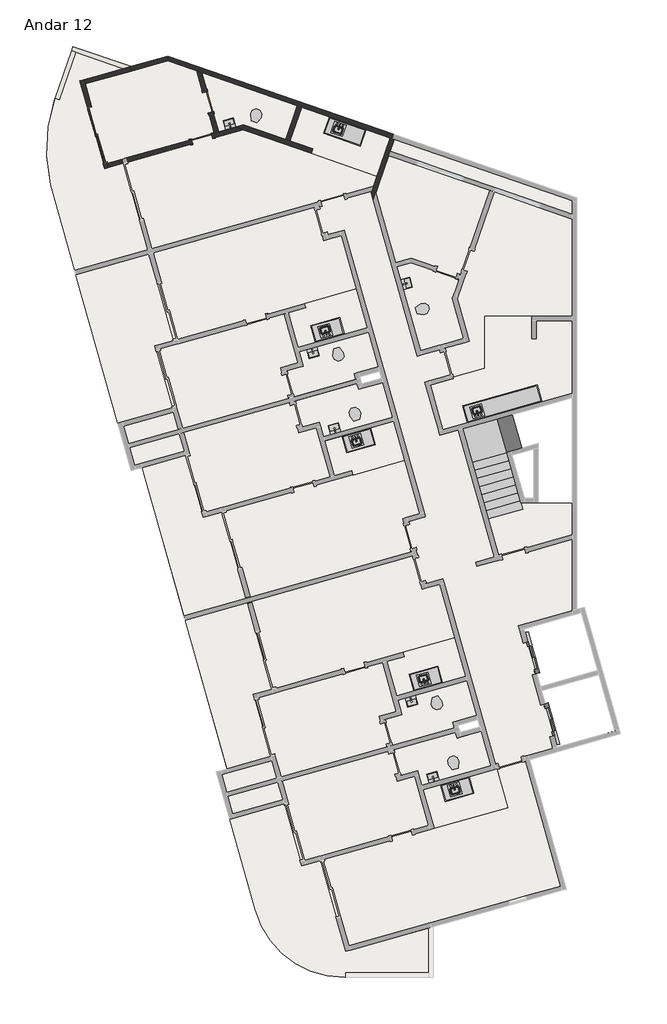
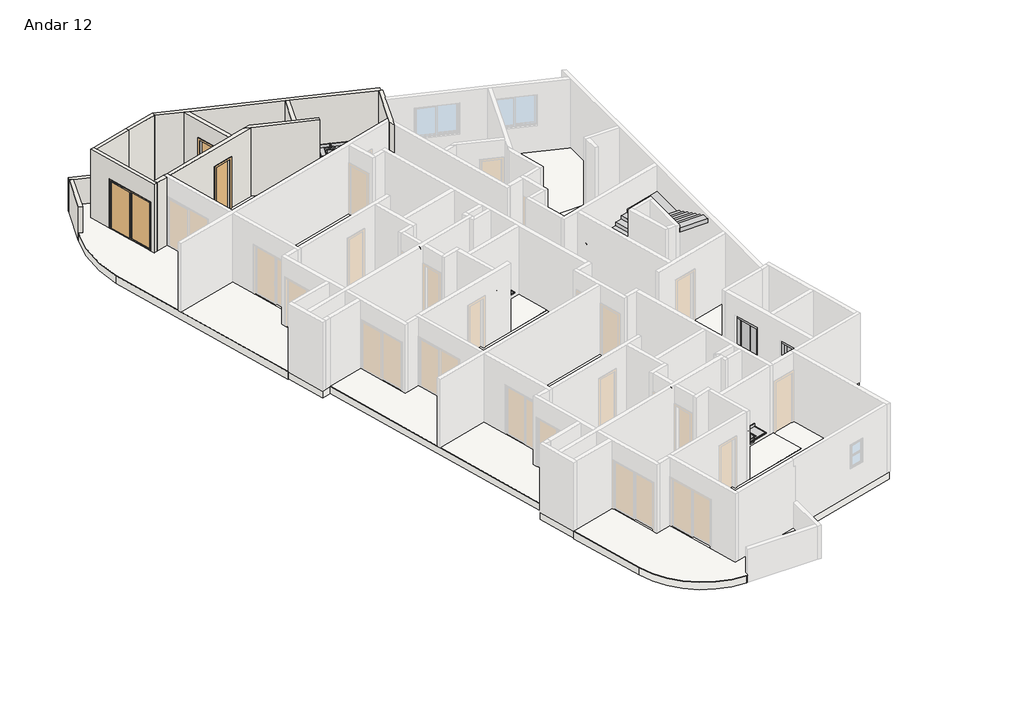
# One storey, part 3 of 3: 18 flow terminals, 18 slabs, 12 walls, 8 proxies, 3 doors, 1 stair flight.
"""IFC4 building model written with IfcOpenShell, lengths in millimetres."""

from ifc_helpers import new_model, si_unit, point, frame, frame_2d, origin, place, context, project, spatial, polyline, circle_curve, trimmed, segment, composite_curve, outline, extrude, faceted_brep, transform, mapped, element, save
from components import specialty_equipment_6c35da8b, specialty_equipment_77dfa124, rf_bancada_cozinha_rf_bancada_cozinha_340fef9f, rf_bancada_cozinha_rf_bancada_cozinha_cfb88ba1, rf_bancada_cozinha_rf_bancada_cozinha_2f873929, rf_bancada_cozinha_rf_bancada_cozinha_798ceddf, p3_70cm_ef4d15e3, p3_70cm_0a698c7c, p4_correr_200cm_eaaa0877, flow_terminal_cab7bae2, flow_terminal_3fb7dc42, flow_terminal_e42b9071, flow_terminal_c6e042c4, ap_01_creme_cr37_13e02e03, ap_01_creme_cr37_5ce6e54d

model = new_model("IFC4")

# Units and contexts
model_context = context("Model", 3, world=origin())
ifc_project = project(units=[si_unit("LENGTHUNIT", "METRE", prefix="MILLI")], contexts=[model_context])

# Site, building, storey
site = spatial("IfcSite", under=ifc_project)
building = spatial("IfcBuilding", under=site)
storey = spatial("IfcBuildingStorey", under=building, Name="Andar 12", Elevation=85550.0)

# Proxies
placement = place(None, origin())
specialty_equipment_shape = specialty_equipment_6c35da8b(model_context)
element("IfcBuildingElementProxy", 1, Name="Porta do elevador : Porta do elevador", ObjectType="Porta do elevador : Porta do elevador", at=placement, inside=storey, context=model_context, shape_type="MappedRepresentation", body=[
    mapped(specialty_equipment_shape, transform((-76594.4337486, 15747.4543727, 85550.0), x_axis=(0.27176796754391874, -0.9623628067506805, 0.0), y_axis=(0.9623628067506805, 0.27176796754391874, 0.0), z_axis=(0.0, 0.0, 1.0))),
])
specialty_equipment_2_shape = specialty_equipment_77dfa124(model_context)
element("IfcBuildingElementProxy", 2, Name="Porta do elevador : Porta do elevador", ObjectType="Porta do elevador : Porta do elevador", at=placement, inside=storey, context=model_context, shape_type="MappedRepresentation", body=[
    mapped(specialty_equipment_2_shape, transform((-75942.1906265, 13437.7836365, 85550.0), x_axis=(-0.27176796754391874, 0.9623628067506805, 0.0), y_axis=(-0.9623628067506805, -0.27176796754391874, 0.0), z_axis=(0.0, 0.0, 1.0))),
])
rf_bancada_cozinha_rf_bancada_cozinha_shape = rf_bancada_cozinha_rf_bancada_cozinha_340fef9f(model_context)
element("IfcBuildingElementProxy", 3, Name="RF_Bancada Cozinha : RF_Bancada Cozinha", ObjectType="RF_Bancada Cozinha : RF_Bancada Cozinha", at=placement, inside=storey, context=model_context, shape_type="MappedRepresentation", body=[
    mapped(rf_bancada_cozinha_rf_bancada_cozinha_shape, transform((-82760.548019, 26451.5820971, 86300.0), x_axis=(-0.9623628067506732, -0.27176796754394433, 0.0), y_axis=(0.27176796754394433, -0.9623628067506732, 0.0), z_axis=(0.0, 0.0, 1.0))),
])
element("IfcBuildingElementProxy", 4, Name="RF_Bancada Cozinha : RF_Bancada Cozinha", ObjectType="RF_Bancada Cozinha : RF_Bancada Cozinha", at=placement, inside=storey, context=model_context, shape_type="MappedRepresentation", body=[
    mapped(rf_bancada_cozinha_rf_bancada_cozinha_shape, transform((-79472.1556117, 14806.9921354, 86300.0), x_axis=(-0.962362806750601, -0.2717679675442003, 0.0), y_axis=(0.2717679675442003, -0.962362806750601, 0.0), z_axis=(0.0, 0.0, 1.0))),
])
rf_bancada_cozinha_rf_bancada_cozinha_2_shape = rf_bancada_cozinha_rf_bancada_cozinha_cfb88ba1(model_context)
element("IfcBuildingElementProxy", 5, Name="RF_Bancada Cozinha : RF_Bancada Cozinha", ObjectType="RF_Bancada Cozinha : RF_Bancada Cozinha", at=placement, inside=storey, context=model_context, shape_type="MappedRepresentation", body=[
    mapped(rf_bancada_cozinha_rf_bancada_cozinha_2_shape, transform((-81877.3021245, 23323.9029751, 86300.0), x_axis=(-0.9623628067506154, -0.27176796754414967, 0.0), y_axis=(0.27176796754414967, -0.9623628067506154, 0.0), z_axis=(0.0, 0.0, 1.0))),
])
element("IfcBuildingElementProxy", 6, Name="RF_Bancada Cozinha : RF_Bancada Cozinha", ObjectType="RF_Bancada Cozinha : RF_Bancada Cozinha", at=placement, inside=storey, context=model_context, shape_type="MappedRepresentation", body=[
    mapped(rf_bancada_cozinha_rf_bancada_cozinha_2_shape, transform((-78588.9097172, 11679.3130134, 86300.0), x_axis=(-0.9623628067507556, -0.27176796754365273, 0.0), y_axis=(0.27176796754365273, -0.9623628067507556, 0.0), z_axis=(0.0, 0.0, 1.0))),
])
rf_bancada_cozinha_rf_bancada_cozinha_3_shape = rf_bancada_cozinha_rf_bancada_cozinha_2f873929(model_context)
element("IfcBuildingElementProxy", 7, Name="RF_Bancada Cozinha : RF_Bancada Cozinha", ObjectType="RF_Bancada Cozinha : RF_Bancada Cozinha", at=placement, inside=storey, context=model_context, shape_type="MappedRepresentation", body=[
    mapped(rf_bancada_cozinha_rf_bancada_cozinha_3_shape, transform((-82030.0326121, 33293.9830661, 86300.0), x_axis=(-0.9449109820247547, 0.32732741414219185, 0.0), y_axis=(-0.32732741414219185, -0.9449109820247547, 0.0), z_axis=(0.0, 0.0, 1.0))),
])
rf_bancada_cozinha_rf_bancada_cozinha_4_shape = rf_bancada_cozinha_rf_bancada_cozinha_798ceddf(model_context)
element("IfcBuildingElementProxy", 8, Name="RF_Bancada Cozinha : RF_Bancada Cozinha", ObjectType="RF_Bancada Cozinha : RF_Bancada Cozinha", at=placement, inside=storey, context=model_context, shape_type="MappedRepresentation", body=[
    mapped(rf_bancada_cozinha_rf_bancada_cozinha_4_shape, transform((-76157.6622331, 24197.9763092, 86300.0), x_axis=(-0.9623628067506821, -0.27176796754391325, 0.0), y_axis=(0.27176796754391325, -0.9623628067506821, 0.0), z_axis=(0.0, 0.0, 1.0))),
])

# Doors
p3_70cm_shape = p3_70cm_ef4d15e3(model_context)
element("IfcDoor", 9, ObjectType="M_Folha única1 : P3 - 70CM", at=placement, inside=storey, context=model_context, shape_type="MappedRepresentation", body=[
    mapped(p3_70cm_shape, transform((-87513.806232, 32980.5300491, 85550.0), x_axis=(0.9623628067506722, 0.2717679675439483, 0.0), y_axis=(-0.2717679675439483, 0.9623628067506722, 0.0), z_axis=(0.0, 0.0, 1.0))),
])
p3_70cm_2_shape = p3_70cm_0a698c7c(model_context)
element("IfcDoor", 10, ObjectType="M_Folha única1 : P3 - 70CM", at=placement, inside=storey, context=model_context, shape_type="MappedRepresentation", body=[
    mapped(p3_70cm_2_shape, transform((-87314.304722, 34205.8663896, 85550.0), x_axis=(-0.2717679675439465, 0.9623628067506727, 0.0), y_axis=(-0.9623628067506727, -0.2717679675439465, 0.0), z_axis=(0.0, 0.0, 1.0))),
])
p4_correr_200cm_shape = p4_correr_200cm_eaaa0877(model_context)
element("IfcDoor", 11, ObjectType="Porta de correr dupla envidraçada sem revestimento : P4 - CORRER - 200CM", at=placement, inside=storey, context=model_context, shape_type="MappedRepresentation", body=[
    mapped(p4_correr_200cm_shape, transform((-91005.8131296, 33111.4415743, 85550.0), x_axis=(0.2717679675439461, -0.9623628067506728, 0.0), y_axis=(0.9623628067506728, 0.2717679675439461, 0.0), z_axis=(0.0, 0.0, 1.0))),
])

# Flow terminals
flow_terminal_shape = flow_terminal_cab7bae2(model_context)
element("IfcFlowTerminal", 12, ObjectType="RF_Pias : Pia da Bancada", at=placement, inside=storey, context=model_context, shape_type="MappedRepresentation", body=[
    mapped(flow_terminal_shape, transform((-83380.5102831, 26570.4992214, 85402.9), x_axis=(-0.9623628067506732, -0.27176796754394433, 0.0), y_axis=(0.27176796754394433, -0.9623628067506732, 0.0), z_axis=(0.0, 0.0, 1.0))),
])
element("IfcFlowTerminal", 13, ObjectType="RF_Pias : Pia da Bancada", at=placement, inside=storey, context=model_context, shape_type="MappedRepresentation", body=[
    mapped(flow_terminal_shape, transform((-80092.1178758, 14925.9092597, 85402.9), x_axis=(-0.962362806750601, -0.2717679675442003, 0.0), y_axis=(0.2717679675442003, -0.962362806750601, 0.0), z_axis=(0.0, 0.0, 1.0))),
])
element("IfcFlowTerminal", 14, ObjectType="RF_Pias : Pia da Bancada", at=placement, inside=storey, context=model_context, shape_type="MappedRepresentation", body=[
    mapped(flow_terminal_shape, transform((-78306.8185143, 23885.0542694, 85402.9), x_axis=(-0.9623628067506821, -0.27176796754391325, 0.0), y_axis=(0.27176796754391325, -0.9623628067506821, 0.0), z_axis=(0.0, 0.0, 1.0))),
])
flow_terminal_2_shape = flow_terminal_3fb7dc42(model_context)
element("IfcFlowTerminal", 15, ObjectType="Deca_Cuba de Apoio Retangular_L7300 : L.7300.17_Branco Gelo GE17", at=placement, inside=storey, context=model_context, shape_type="MappedRepresentation", body=[
    mapped(flow_terminal_2_shape, transform((-83090.0822283, 23308.7374016, 86300.0), x_axis=(-0.9623628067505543, -0.2717679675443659, 0.0), y_axis=(0.2717679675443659, -0.9623628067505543, 0.0), z_axis=(0.0, 0.0, 1.0))),
])
element("IfcFlowTerminal", 16, ObjectType="Deca_Cuba de Apoio Retangular_L7300 : L.7300.17_Branco Gelo GE17", at=placement, inside=storey, context=model_context, shape_type="MappedRepresentation", body=[
    mapped(flow_terminal_2_shape, transform((-79801.689821, 11664.1474399, 86300.0), x_axis=(-0.9623628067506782, -0.2717679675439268, 0.0), y_axis=(0.2717679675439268, -0.9623628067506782, 0.0), z_axis=(0.0, 0.0, 1.0))),
])
element("IfcFlowTerminal", 17, ObjectType="Deca_Cuba de Apoio Retangular_L7300 : L.7300.17_Branco Gelo GE17", at=placement, inside=storey, context=model_context, shape_type="MappedRepresentation", body=[
    mapped(flow_terminal_2_shape, transform((-80677.0991462, 28154.8020678, 86300.0), x_axis=(-0.2717679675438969, 0.9623628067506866, 0.0), y_axis=(-0.9623628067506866, -0.2717679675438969, 0.0), z_axis=(0.0, 0.0, 1.0))),
])
element("IfcFlowTerminal", 18, ObjectType="Deca_Cuba de Apoio Retangular_L7300 : L.7300.17_Branco Gelo GE17", at=placement, inside=storey, context=model_context, shape_type="MappedRepresentation", body=[
    mapped(flow_terminal_2_shape, transform((-86597.4204814, 33488.7004496, 86300.0), x_axis=(-0.9623628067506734, -0.27176796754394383, 0.0), y_axis=(0.27176796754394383, -0.9623628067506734, 0.0), z_axis=(0.0, 0.0, 1.0))),
])
flow_terminal_3_shape = flow_terminal_e42b9071(model_context)
element("IfcFlowTerminal", 19, ObjectType="Deca_Cuba de Apoio Retangular_L7300 : L.7300.17_Branco Gelo GE17", at=placement, inside=storey, context=model_context, shape_type="MappedRepresentation", body=[
    mapped(flow_terminal_3_shape, transform((-83802.1143033, 25830.1279553, 86300.0), x_axis=(-0.9623628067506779, -0.2717679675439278, 0.0), y_axis=(0.2717679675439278, -0.9623628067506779, 0.0), z_axis=(0.0, 0.0, 1.0))),
])
element("IfcFlowTerminal", 20, ObjectType="Deca_Cuba de Apoio Retangular_L7300 : L.7300.17_Branco Gelo GE17", at=placement, inside=storey, context=model_context, shape_type="MappedRepresentation", body=[
    mapped(flow_terminal_3_shape, transform((-80513.721896, 14185.5379936, 86300.0), x_axis=(-0.962362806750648, -0.27176796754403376, 0.0), y_axis=(0.27176796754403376, -0.962362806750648, 0.0), z_axis=(0.0, 0.0, 1.0))),
])
flow_terminal_4_shape = flow_terminal_c6e042c4(model_context)
element("IfcFlowTerminal", 21, ObjectType="RF_Pias : Pia da Bancada", at=placement, inside=storey, context=model_context, shape_type="MappedRepresentation", body=[
    mapped(flow_terminal_4_shape, transform((-82343.483233, 22898.2626745, 85402.9), x_axis=(-0.9623628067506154, -0.27176796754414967, 0.0), y_axis=(0.27176796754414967, -0.9623628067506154, 0.0), z_axis=(0.0, 0.0, 1.0))),
])
element("IfcFlowTerminal", 22, ObjectType="RF_Pias : Pia da Bancada", at=placement, inside=storey, context=model_context, shape_type="MappedRepresentation", body=[
    mapped(flow_terminal_4_shape, transform((-79055.0908257, 11253.6727129, 85402.9), x_axis=(-0.9623628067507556, -0.27176796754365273, 0.0), y_axis=(0.27176796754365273, -0.9623628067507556, 0.0), z_axis=(0.0, 0.0, 1.0))),
])
element("IfcFlowTerminal", 23, ObjectType="RF_Pias : Pia da Bancada", at=placement, inside=storey, context=model_context, shape_type="MappedRepresentation", body=[
    mapped(flow_terminal_4_shape, transform((-82939.3392028, 33309.5545572, 85402.9), x_axis=(-0.9449109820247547, 0.32732741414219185, 0.0), y_axis=(-0.32732741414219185, -0.9449109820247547, 0.0), z_axis=(0.0, 0.0, 1.0))),
])
ap_01_creme_cr37_shape = ap_01_creme_cr37_13e02e03(model_context)
element("IfcFlowTerminal", 24, ObjectType="Deca_Shared_Assento_P.900 : AP.01_Creme CR37", at=placement, inside=storey, context=model_context, shape_type="MappedRepresentation", body=[
    mapped(ap_01_creme_cr37_shape, transform((-83017.5301151, 25983.4740486, 85937.8723674), x_axis=(0.9623628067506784, 0.2717679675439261, 0.0), y_axis=(0.0, 0.0, 1.0), z_axis=(0.2717679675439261, -0.9623628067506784, 0.0))),
])
element("IfcFlowTerminal", 25, ObjectType="Deca_Shared_Assento_P.900 : AP.01_Creme CR37", at=placement, inside=storey, context=model_context, shape_type="MappedRepresentation", body=[
    mapped(ap_01_creme_cr37_shape, transform((-79729.1377078, 14338.8840869, 85937.8723674), x_axis=(0.962362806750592, 0.2717679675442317, 0.0), y_axis=(0.0, 0.0, 1.0), z_axis=(0.2717679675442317, -0.962362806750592, 0.0))),
])
element("IfcFlowTerminal", 26, ObjectType="Deca_Shared_Assento_P.900 : AP.01_Creme CR37", at=placement, inside=storey, context=model_context, shape_type="MappedRepresentation", body=[
    mapped(ap_01_creme_cr37_shape, transform((-80349.5164684, 27236.3600819, 85937.8723674), x_axis=(-0.271767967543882, 0.9623628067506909, 0.0), y_axis=(0.0, 0.0, 1.0), z_axis=(0.9623628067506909, 0.271767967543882, 0.0))),
])
element("IfcFlowTerminal", 27, ObjectType="Deca_Shared_Assento_P.900 : AP.01_Creme CR37", at=placement, inside=storey, context=model_context, shape_type="MappedRepresentation", body=[
    mapped(ap_01_creme_cr37_shape, transform((-85777.8760768, 33566.4131555, 85937.8723674), x_axis=(-0.9449109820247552, 0.3273274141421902, 0.0), y_axis=(0.0, 0.0, 1.0000000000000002), z_axis=(0.3273274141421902, 0.9449109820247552, 0.0))),
])
ap_01_creme_cr37_2_shape = ap_01_creme_cr37_5ce6e54d(model_context)
element("IfcFlowTerminal", 28, ObjectType="Deca_Shared_Assento_P.900 : AP.01_Creme CR37", at=placement, inside=storey, context=model_context, shape_type="MappedRepresentation", body=[
    mapped(ap_01_creme_cr37_2_shape, transform((-82341.1813229, 23588.4422577, 85937.8723674), x_axis=(0.9623628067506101, 0.27176796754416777, 0.0), y_axis=(0.0, 0.0, -1.0), z_axis=(-0.27176796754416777, 0.9623628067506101, 0.0))),
])
element("IfcFlowTerminal", 29, ObjectType="Deca_Shared_Assento_P.900 : AP.01_Creme CR37", at=placement, inside=storey, context=model_context, shape_type="MappedRepresentation", body=[
    mapped(ap_01_creme_cr37_2_shape, transform((-79052.7889156, 11943.852296, 85937.8723674), x_axis=(0.9623628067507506, 0.2717679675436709, 0.0), y_axis=(0.0, 0.0, -1.0000000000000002), z_axis=(-0.2717679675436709, 0.9623628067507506, 0.0))),
])

# Slabs
element("IfcSlab", 30, ObjectType="TZ_Piso de Áreas Molhadas", at=placement, inside=storey, context=model_context, shape_type="SweptSolid", body=[
    extrude(outline(composite_curve([segment(polyline([(-90765.4571774, 31984.341749), (-90143.7425806, 32159.9118263), (-89328.438678, 29272.823406), (-91766.0080564, 28584.4621444), (-92573.2320087, 31442.9384962)]), True, "CONTINUOUS"), segment(trimmed(circle_curve(frame_2d((-87414.5556743, 32622.5665107)), 5291.829908), [point((-92573.2320087, 31442.9384962))], [point((-92422.0860726, 34333.7366032))], False, "CARTESIAN"), True, "CONTINUOUS"), segment(polyline([(-92422.0860726, 34333.7366032), (-92280.2794148, 34284.6132387), (-91729.7010481, 35873.9929322), (-90151.0501028, 35327.1311202), (-91594.3494784, 34919.5483093), (-90765.4571774, 31984.341749)]), True, "CONTINUOUS")], self_intersect=False)), frame((0.0, 0.0, 85550.0), z_axis=(0.0, 0.0, 1.0), x_axis=(1.0, 0.0, 0.0)), (0.0, 0.0, 1.0), 20.0),
])
element("IfcSlab", 31, ObjectType="TZ_Piso de Áreas Molhadas", at=placement, inside=storey, context=model_context, shape_type="SweptSolid", body=[
    extrude(outline(polyline([(-88472.3695802, 26241.3805647), (-89094.084177, 26065.8104874), (-88509.7830468, 23996.7304529), (-90325.6378284, 23483.9392686), (-91725.2428613, 28440.1077234), (-89287.6734828, 29128.468985), (-88472.3695802, 26241.3805647)])), frame((0.0, 0.0, 85550.0), z_axis=(0.0, 0.0, 1.0), x_axis=(1.0, 0.0, 0.0)), (0.0, 0.0, 1.0), 20.0),
])
element("IfcSlab", 32, ObjectType="TZ_Piso de Áreas Molhadas", at=placement, inside=storey, context=model_context, shape_type="SweptSolid", body=[
    extrude(outline(polyline([(-86855.3501733, 20515.3218645), (-86040.0462707, 17628.2334443), (-88109.1263052, 17043.9323141), (-89508.731338, 22000.1007688), (-88061.3659003, 22408.8318218), (-87477.0647701, 20339.7517872), (-86855.3501733, 20515.3218645)])), frame((0.0, 0.0, 85550.0), z_axis=(0.0, 0.0, 1.0), x_axis=(1.0, 0.0, 0.0)), (0.0, 0.0, 1.0), 20.0),
])
element("IfcSlab", 33, ObjectType="TZ_Piso de Áreas Molhadas", at=placement, inside=storey, context=model_context, shape_type="SweptSolid", body=[
    extrude(outline(polyline([(-78926.5637691, 28284.9851582), (-79146.9727346, 27648.7205404), (-78771.1333302, 26317.8283554), (-80214.6775403, 25910.176404), (-81004.3851492, 28706.6252933), (-80530.2499593, 28840.5194505), (-78926.5637691, 28284.9851582)])), frame((0.0, 0.0, 85550.0), z_axis=(0.0, 0.0, 1.0), x_axis=(1.0, 0.0, 0.0)), (0.0, 0.0, 1.0), 20.0),
])
element("IfcSlab", 34, ObjectType="TZ_Piso de Áreas Molhadas", at=placement, inside=storey, context=model_context, shape_type="SweptSolid", body=[
    extrude(outline(polyline([(-78070.9150345, 27060.8243598), (-76493.6479314, 27060.8243598), (-76493.6479314, 26310.8243598), (-76343.6479314, 26310.8243598), (-76343.6479314, 26910.8243598), (-75147.8282189, 26910.8243598), (-75147.8282189, 24483.4871675), (-79467.3156296, 23263.6786855), (-79888.5559793, 24755.3410359), (-79127.7601479, 24970.1871785), (-79141.3485461, 25018.3053183), (-78070.9150345, 25320.5920836), (-78070.9150345, 27060.8243598)])), frame((0.0, 0.0, 85550.0), z_axis=(0.0, 0.0, 1.0), x_axis=(1.0, 0.0, 0.0)), (0.0, 0.0, 1.0), 20.0),
])
element("IfcSlab", 35, ObjectType="TZ_Piso de Áreas Molhadas", at=placement, inside=storey, context=model_context, shape_type="SweptSolid", body=[
    extrude(outline(polyline([(-84719.4810559, 32955.6762822), (-86137.8721095, 33447.0223292), (-86956.7711455, 33215.7680402), (-87515.4733556, 35194.1992432), (-84326.6881589, 34089.5694606), (-84719.4810559, 32955.6762822)])), frame((0.0, 0.0, 85550.0), z_axis=(0.0, 0.0, 1.0), x_axis=(1.0, 0.0, 0.0)), (0.0, 0.0, 1.0), 20.0),
])
element("IfcSlab", 36, ObjectType="TZ_Piso de Áreas Molhadas", at=placement, inside=storey, context=model_context, shape_type="SweptSolid", body=[
    extrude(outline(polyline([(-84577.7444086, 32906.57717), (-84184.9515116, 34040.4703485), (-81226.8582774, 33015.7547641), (-81668.7502865, 31740.1249383), (-83870.9147351, 32502.9785914), (-83821.815623, 32644.7152387), (-84577.7444086, 32906.57717)])), frame((0.0, 0.0, 85550.0), z_axis=(0.0, 0.0, 1.0), x_axis=(1.0, 0.0, 0.0)), (0.0, 0.0, 1.0), 20.0),
])
element("IfcSlab", 37, ObjectType="TZ_Piso de Áreas Molhadas", at=placement, inside=storey, context=model_context, shape_type="SweptSolid", body=[
    extrude(outline(polyline([(-81949.8925784, 26524.6420501), (-81623.7710174, 25369.806682), (-82432.1557751, 25141.5215893), (-82377.8021816, 24949.0490279), (-84456.5058441, 24362.030218), (-84701.0970149, 25228.1567441), (-84123.6793309, 25391.2175246), (-84259.5633146, 25872.398928), (-81949.8925784, 26524.6420501)])), frame((0.0, 0.0, 85550.0), z_axis=(0.0, 0.0, 1.0), x_axis=(1.0, 0.0, 0.0)), (0.0, 0.0, 1.0), 20.0),
])
element("IfcSlab", 38, ObjectType="TZ_Piso de Áreas Molhadas", at=placement, inside=storey, context=model_context, shape_type="SweptSolid", body=[
    extrude(outline(polyline([(-84089.7975819, 27479.0039186), (-82357.5445298, 27968.1862602), (-81990.6577736, 26668.9964711), (-84300.3285098, 26016.753349), (-84626.4500708, 27171.5887171), (-84049.0323868, 27334.6494976), (-84089.7975819, 27479.0039186)])), frame((0.0, 0.0, 85550.0), z_axis=(0.0, 0.0, 1.0), x_axis=(1.0, 0.0, 0.0)), (0.0, 0.0, 1.0), 20.0),
])
element("IfcSlab", 39, ObjectType="TZ_Piso de Áreas Molhadas", at=placement, inside=storey, context=model_context, shape_type="SweptSolid", body=[
    extrude(outline(polyline([(-84171.1494782, 23351.5492709), (-84415.740649, 24217.675797), (-82337.0369864, 24804.6946069), (-82282.6833929, 24612.2220455), (-81474.2986352, 24840.5071383), (-81148.1770742, 23685.6717702), (-83457.8478104, 23033.4286481), (-83593.7317942, 23514.6100514), (-84171.1494782, 23351.5492709)])), frame((0.0, 0.0, 85550.0), z_axis=(0.0, 0.0, 1.0), x_axis=(1.0, 0.0, 0.0)), (0.0, 0.0, 1.0), 20.0),
])
element("IfcSlab", 40, ObjectType="TZ_Piso de Áreas Molhadas", at=placement, inside=storey, context=model_context, shape_type="SweptSolid", body=[
    extrude(outline(composite_curve([segment(polyline([(-79945.4990038, 5119.4122055), (-82713.5540687, 5119.4122055), (-82713.5540687, 4969.4122055), (-82751.3896972, 4969.4122055)]), True, "CONTINUOUS"), segment(trimmed(circle_curve(frame_2d((-82751.3896972, 8069.4122055)), 3100.0), [point((-82751.3896972, 4969.4122055))], [point((-85734.7143981, 7226.9315061))], False, "CARTESIAN"), True, "CONTINUOUS"), segment(polyline([(-85734.7143981, 7226.9315061), (-86588.8282733, 10251.4506708), (-84772.9735093, 10764.2419177), (-84188.6722855, 8695.1618243), (-83566.957766, 8870.7319029), (-82710.8885369, 5839.2889958), (-79945.4990038, 6620.2256515), (-79945.4990038, 5119.4122055)]), True, "CONTINUOUS")], self_intersect=False)), frame((0.0, 0.0, 85550.0), z_axis=(0.0, 0.0, 1.0), x_axis=(1.0, 0.0, 0.0)), (0.0, 0.0, 1.0), 20.0),
])
element("IfcSlab", 41, ObjectType="TZ_Piso de Áreas Molhadas", at=placement, inside=storey, context=model_context, shape_type="SweptSolid", body=[
    extrude(outline(polyline([(-78185.906228, 13195.9171766), (-77859.7846669, 12041.0818085), (-80169.4554031, 11388.8386864), (-80305.3393869, 11870.0200898), (-80882.7570709, 11706.9593092), (-81127.3482417, 12573.0858353), (-79048.6445791, 13160.1046452), (-78994.2909856, 12967.6320839), (-78185.906228, 13195.9171766)])), frame((0.0, 0.0, 85550.0), z_axis=(0.0, 0.0, 1.0), x_axis=(1.0, 0.0, 0.0)), (0.0, 0.0, 1.0), 20.0),
])
element("IfcSlab", 42, ObjectType="TZ_Piso de Áreas Molhadas", at=placement, inside=storey, context=model_context, shape_type="SweptSolid", body=[
    extrude(outline(polyline([(-77307.7782946, 10638.3027935), (-79761.8034518, 9945.2944763), (-80128.690208, 11244.4842654), (-77674.6650508, 11937.4925826), (-77307.7782946, 10638.3027935)])), frame((0.0, 0.0, 85550.0), z_axis=(0.0, 0.0, 1.0), x_axis=(1.0, 0.0, 0.0)), (0.0, 0.0, 1.0), 20.0),
])
element("IfcSlab", 43, ObjectType="TZ_Piso de Áreas Molhadas", at=placement, inside=storey, context=model_context, shape_type="SweptSolid", body=[
    extrude(outline(polyline([(-81107.9410005, 23543.1910314), (-80740.5251229, 22242.1275601), (-82472.778175, 21752.9452185), (-82513.5433702, 21897.2996395), (-83090.9610542, 21734.238859), (-83418.0192411, 22888.8089065), (-81107.9410005, 23543.1910314)])), frame((0.0, 0.0, 85550.0), z_axis=(0.0, 0.0, 1.0), x_axis=(1.0, 0.0, 0.0)), (0.0, 0.0, 1.0), 20.0),
])
element("IfcSlab", 44, ObjectType="TZ_Piso de Áreas Molhadas", at=placement, inside=storey, context=model_context, shape_type="SweptSolid", body=[
    extrude(outline(polyline([(-85183.9771729, 14596.790603), (-85805.6917697, 14421.2205257), (-85221.3906395, 12352.1404912), (-86668.7560772, 11943.4094383), (-88068.36111, 16899.5778931), (-85999.2810755, 17483.8790233), (-85183.9771729, 14596.790603)])), frame((0.0, 0.0, 85550.0), z_axis=(0.0, 0.0, 1.0), x_axis=(1.0, 0.0, 0.0)), (0.0, 0.0, 1.0), 20.0),
])
element("IfcSlab", 45, ObjectType="TZ_Piso de Áreas Molhadas", at=placement, inside=storey, context=model_context, shape_type="SweptSolid", body=[
    extrude(outline(polyline([(-81412.7046076, 13583.5667824), (-80835.2869236, 13746.6275629), (-80971.1709074, 14227.8089663), (-78661.5001712, 14880.0520884), (-78335.3786101, 13725.2167203), (-79143.7633678, 13496.9316276), (-79089.4097743, 13304.4590662), (-81168.1134368, 12717.4402563), (-81412.7046076, 13583.5667824)])), frame((0.0, 0.0, 85550.0), z_axis=(0.0, 0.0, 1.0), x_axis=(1.0, 0.0, 0.0)), (0.0, 0.0, 1.0), 20.0),
])
element("IfcSlab", 46, ObjectType="TZ_Piso de Áreas Molhadas", at=placement, inside=storey, context=model_context, shape_type="SweptSolid", body=[
    extrude(outline(polyline([(-78701.7362448, 15022.5328272), (-81012.8731576, 14371.8995868), (-81338.0576635, 15526.9987554), (-80760.6399795, 15690.059536), (-80801.4051746, 15834.413957), (-79069.1521225, 16323.5962985), (-78701.7362448, 15022.5328272)])), frame((0.0, 0.0, 85550.0), z_axis=(0.0, 0.0, 1.0), x_axis=(1.0, 0.0, 0.0)), (0.0, 0.0, 1.0), 20.0),
])
element("IfcSlab", 47, ObjectType="TZ_Laje 30cm", at=placement, inside=storey, context=model_context, shape_type="SweptSolid", body=[
    extrude(outline(composite_curve([segment(polyline([(-82713.5540687, 4969.4122055), (-82751.3896972, 4969.4122055)]), True, "CONTINUOUS"), segment(trimmed(circle_curve(frame_2d((-82751.3896972, 8069.4122055)), 3100.0), [point((-82751.3896972, 4969.4122055))], [point((-85734.7143981, 7226.9315061))], False, "CARTESIAN"), True, "CONTINUOUS"), segment(polyline([(-85734.7143981, 7226.9315061), (-86588.8282747, 10251.4506758), (-86574.3928326, 10255.5271953), (-87018.7334595, 11828.9903844), (-86664.6795577, 11928.9739962), (-89512.8078575, 22014.5362109), (-89866.8617594, 21914.5525991), (-90311.2023863, 23488.0157882), (-90325.6378284, 23483.9392686), (-92573.2320087, 31442.9384962)]), True, "CONTINUOUS"), segment(trimmed(circle_curve(frame_2d((-87414.5556743, 32622.5665107)), 5291.829908), [point((-92573.2320087, 31442.9384962))], [point((-92426.4466323, 34320.9224218))], False, "CARTESIAN"), True, "CONTINUOUS"), segment(polyline([(-92426.4466323, 34320.9224218), (-92422.0160621, 34333.7123509), (-92403.1178425, 34327.1658026), (-91809.986912, 36039.3839237), (-89899.2062586, 35377.468778), (-88658.6666899, 35727.7929124), (-75017.8282189, 31002.4584964), (-75017.8282189, 17238.3098681), (-74750.7083414, 17313.7436086), (-73565.8000029, 13117.8417711), (-76592.4310301, 12263.1315132), (-75369.6745845, 7933.2050117), (-79815.4990038, 6677.7193903), (-79815.4990038, 4989.4122055), (-82713.5540687, 4989.4122055), (-82713.5540687, 4969.4122055)]), True, "CONTINUOUS")], self_intersect=False), holes=[polyline([(-81583.0058223, 25225.452261), (-82247.0361589, 25037.9323634), (-82179.094167, 24797.3416617), (-81515.0638304, 24984.8615593), (-81583.0058223, 25225.452261)]), polyline([(-78294.613415, 13580.8622993), (-78958.6437516, 13393.3424017), (-78890.7017597, 13152.7517), (-78226.6714231, 13340.2715976), (-78294.613415, 13580.8622993)]), polyline([(-74840.4856705, 17153.3066079), (-76760.3994699, 16611.1295126), (-76221.8794944, 14704.1660107), (-75646.150803, 12665.442005), (-73726.2370035, 13207.6191002), (-74270.7319215, 15135.7405865), (-74840.4856705, 17153.3066079)]), polyline([(-77952.9130698, 20291.1915783), (-76801.2963825, 20616.4041949), (-76858.5413412, 20819.1154254), (-75147.8282189, 20819.1154254), (-75147.8282189, 24343.0530162), (-78807.9060206, 23309.4595541), (-77952.9130698, 20291.1915783)])]), frame((0.0, 0.0, 85250.0), z_axis=(0.0, 0.0, 1.0), x_axis=(1.0, 0.0, 0.0)), (0.0, 0.0, 1.0), 300.0),
])

# Stair flight
element("IfcStairFlight", 48, ObjectType="Profundidade de 150mm", at=placement, inside=storey, context=model_context, shape_type="Brep", body=[
    faceted_brep([(-78029.0944782, 20560.1246789, 85688.0952381), (-77952.7808761, 20290.7249124, 85688.0952381), (-76802.2714069, 20616.6328483, 85688.0952381), (-76878.3664628, 20886.0945229, 85688.0952381), (-78029.0944782, 20560.1246789, 85550.0), (-77952.7808761, 20290.7249124, 85550.0), (-76802.2714069, 20616.6328483, 85550.0), (-76878.3664628, 20886.0945229, 85550.0), (-78105.4080802, 20829.5244453, 85826.1904762), (-78029.0944782, 20560.1246789, 85826.1904762), (-76878.3664628, 20886.0945229, 85826.1904762), (-76954.4615188, 21155.5561975, 85826.1904762), (-78105.4080802, 20829.5244453, 85658.939228), (-78045.2065482, 20617.0029783, 85550.0), (-76894.4323913, 20942.985893, 85550.0), (-76954.4615188, 21155.5561975, 85658.939228), (-78181.7216823, 21098.9242117, 85964.2857143), (-78105.4080802, 20829.5244453, 85964.2857143), (-76954.4615188, 21155.5561975, 85964.2857143), (-77030.5565747, 21425.017872, 85964.2857143), (-78181.7216823, 21098.9242117, 85797.0344661), (-77030.5565747, 21425.017872, 85797.0344661), (-78258.0352843, 21368.3239781, 86102.3809524), (-78181.7216823, 21098.9242117, 86102.3809524), (-77030.5565747, 21425.017872, 86102.3809524), (-77106.6516307, 21694.4795466, 86102.3809524), (-78258.0352843, 21368.3239781, 85935.1297042), (-77106.6516307, 21694.4795466, 85935.1297042), (-78334.3488864, 21637.7237445, 86240.4761905), (-78258.0352843, 21368.3239781, 86240.4761905), (-77106.6516307, 21694.4795466, 86240.4761905), (-77182.7466866, 21963.9412211, 86240.4761905), (-78334.3488864, 21637.7237445, 86073.2249423), (-77182.7466866, 21963.9412211, 86073.2249423), (-78410.6624885, 21907.1235109, 86378.5714286), (-78334.3488864, 21637.7237445, 86378.5714286), (-77182.7466866, 21963.9412211, 86378.5714286), (-77258.8417426, 22233.4028957, 86378.5714286), (-78410.6624885, 21907.1235109, 86211.3201804), (-77258.8417426, 22233.4028957, 86211.3201804), (-78486.9760905, 22176.5232773, 86516.6666667), (-78410.6624885, 21907.1235109, 86516.6666667), (-77258.8417426, 22233.4028957, 86516.6666667), (-77334.9367985, 22502.8645702, 86516.6666667), (-78486.9760905, 22176.5232773, 86349.4154185), (-77334.9367985, 22502.8645702, 86349.4154185), (-77650.6473278, 23620.8332322, 86654.7619048), (-78803.8582924, 23295.1703972, 86654.7619048), (-78572.8230038, 22479.5772253, 86654.7619048), (-78486.9760905, 22176.5232773, 86654.7619048), (-77334.9367985, 22502.8645702, 86654.7619048), (-77337.6544782, 22512.4881983, 86654.7619048), (-77650.6473278, 23620.8332322, 86504.7619048), (-78803.8582924, 23295.1703972, 86504.7619048), (-78572.8230038, 22479.5772253, 86504.7619048), (-77420.5378643, 22805.9881601, 86504.7619048), (-77337.6544782, 22512.4881983, 86504.7619048), (-77650.6473278, 23620.8332322, 86792.8571429), (-77337.6544782, 22512.4881983, 86792.8571429), (-77303.5536842, 22522.118146, 86792.8571429), (-77083.6709973, 22584.2122653, 86792.8571429), (-77396.6638468, 23692.5572992, 86792.8571429), (-77616.5465338, 23630.4631799, 86792.8571429), (-77396.6638468, 23692.5572992, 86619.0904432), (-77616.5465338, 23630.4631799, 86504.7619048), (-77303.5536842, 22522.118146, 86504.7619048), (-77083.6709973, 22584.2122653, 86619.0904432), (-77127.202261, 23768.6523301, 86930.952381), (-77396.6638468, 23692.5572992, 86930.952381), (-77083.6709973, 22584.2122653, 86930.952381), (-76814.2094114, 22660.3072962, 86930.952381), (-77127.202261, 23768.6523301, 86759.1976509), (-76814.2094114, 22660.3072962, 86759.1976509), (-76857.7406751, 23844.747361, 87069.047619), (-77127.202261, 23768.6523301, 87069.047619), (-76814.2094114, 22660.3072962, 87069.047619), (-76544.7478255, 22736.4023271, 87069.047619), (-76857.7406751, 23844.747361, 86899.3048586), (-76544.7478255, 22736.4023271, 86899.3048586), (-76588.2790892, 23920.842392, 87207.1428571), (-76857.7406751, 23844.747361, 87207.1428571), (-76544.7478255, 22736.4023271, 87207.1428571), (-76275.2862396, 22812.497358, 87207.1428571), (-76588.2790892, 23920.842392, 87039.4120663), (-75975.593386, 22897.1295956, 87195.2380952), (-76275.2862396, 22812.497358, 87195.2380952), (-75147.8282189, 22779.1154254, 87345.2380952), (-75147.8282189, 24327.6207947, 87345.2380952), (-76288.5862355, 24005.4746296, 87345.2380952), (-76588.2790892, 23920.842392, 87345.2380952), (-76275.2862396, 22812.497358, 87345.2380952), (-76275.2862396, 22779.1154254, 87345.2380952), (-75147.8282189, 22779.1154254, 87195.2380952), (-75147.8282189, 24327.6207947, 87195.2380952), (-76288.5862355, 24005.4746296, 87195.2380952), (-76275.2862396, 22779.1154254, 87195.2380952), (-75147.8282189, 22779.1154254, 87483.3333333), (-76275.2862396, 22779.1154254, 87483.3333333), (-76275.2862396, 22744.1370326, 87483.3333333), (-76275.2862396, 22499.1154254, 87483.3333333), (-75147.8282189, 22499.1154254, 87483.3333333), (-75147.8282189, 22744.1370326, 87483.3333333), (-75147.8282189, 22499.1154254, 87316.0820852), (-75147.8282189, 22744.1370326, 87195.2380952), (-76275.2862396, 22744.1370326, 87195.2380952), (-76275.2862396, 22499.1154254, 87316.0820852), (-75147.8282189, 22219.1154254, 87621.4285714), (-75147.8282189, 22499.1154254, 87621.4285714), (-76275.2862396, 22499.1154254, 87621.4285714), (-76275.2862396, 22219.1154254, 87621.4285714), (-75147.8282189, 22219.1154254, 87454.1773233), (-76275.2862396, 22219.1154254, 87454.1773233), (-75147.8282189, 21939.1154254, 87759.5238095), (-75147.8282189, 22219.1154254, 87759.5238095), (-76275.2862396, 22219.1154254, 87759.5238095), (-76275.2862396, 21939.1154254, 87759.5238095), (-75147.8282189, 21939.1154254, 87592.2725614), (-76275.2862396, 21939.1154254, 87592.2725614), (-75147.8282189, 21659.1154254, 87897.6190476), (-75147.8282189, 21939.1154254, 87897.6190476), (-76275.2862396, 21939.1154254, 87897.6190476), (-76275.2862396, 21659.1154254, 87897.6190476), (-75147.8282189, 21659.1154254, 87730.3677995), (-76275.2862396, 21659.1154254, 87730.3677995), (-75147.8282189, 21379.1154254, 88035.7142857), (-75147.8282189, 21659.1154254, 88035.7142857), (-76275.2862396, 21659.1154254, 88035.7142857), (-76275.2862396, 21379.1154254, 88035.7142857), (-75147.8282189, 21379.1154254, 87868.4630376), (-76275.2862396, 21379.1154254, 87868.4630376), (-75147.8282189, 21099.1154254, 88173.8095238), (-75147.8282189, 21379.1154254, 88173.8095238), (-76275.2862396, 21379.1154254, 88173.8095238), (-76275.2862396, 21099.1154254, 88173.8095238), (-75147.8282189, 21099.1154254, 88006.5582757), (-76275.2862396, 21099.1154254, 88006.5582757), (-75147.8282189, 20819.1154254, 88311.9047619), (-75147.8282189, 21099.1154254, 88311.9047619), (-76275.2862396, 21099.1154254, 88311.9047619), (-76275.2862396, 20819.1154254, 88311.9047619), (-75147.8282189, 20819.1154254, 88144.6535138), (-76275.2862396, 20819.1154254, 88144.6535138), (-76275.2862396, 23958.3777566, 87195.2380952)], [[[0, 1, 2, 3]], [[1, 0, 4, 5]], [[2, 1, 5, 6]], [[3, 2, 6, 7]], [[8, 9, 10, 11]], [[4, 0, 9, 8, 12, 13]], [[0, 3, 10, 9]], [[3, 7, 14, 15, 11, 10]], [[16, 17, 18, 19]], [[17, 16, 20, 12, 8]], [[8, 11, 18, 17]], [[19, 18, 11, 15, 21]], [[22, 23, 24, 25]], [[23, 22, 26, 20, 16]], [[16, 19, 24, 23]], [[25, 24, 19, 21, 27]], [[28, 29, 30, 31]], [[29, 28, 32, 26, 22]], [[22, 25, 30, 29]], [[31, 30, 25, 27, 33]], [[34, 35, 36, 37]], [[35, 34, 38, 32, 28]], [[28, 31, 36, 35]], [[37, 36, 31, 33, 39]], [[40, 41, 42, 43]], [[41, 40, 44, 38, 34]], [[34, 37, 42, 41]], [[43, 42, 37, 39, 45]], [[46, 47, 48, 49, 50, 51]], [[47, 46, 52, 53]], [[40, 49, 48, 47, 53, 54, 44]], [[40, 43, 50, 49]], [[51, 50, 43, 45, 55, 56]], [[57, 58, 59, 60, 61, 62]], [[46, 57, 62, 61, 63, 64, 52]], [[46, 51, 58, 57]], [[58, 51, 56, 65, 66, 60, 59]], [[67, 68, 69, 70]], [[68, 67, 71, 63, 61]], [[61, 60, 69, 68]], [[70, 69, 60, 66, 72]], [[73, 74, 75, 76]], [[74, 73, 77, 71, 67]], [[67, 70, 75, 74]], [[76, 75, 70, 72, 78]], [[79, 80, 81, 82]], [[80, 79, 83, 77, 73]], [[73, 76, 81, 80]], [[82, 81, 76, 78, 84, 85]], [[86, 87, 88, 89, 90, 91]], [[87, 86, 92, 93]], [[79, 89, 88, 87, 93, 94, 83]], [[79, 82, 90, 89]], [[91, 90, 82, 85, 95]], [[96, 97, 98, 99, 100, 101]], [[86, 96, 101, 100, 102, 103, 92]], [[86, 91, 97, 96]], [[97, 91, 95, 104, 105, 99, 98]], [[106, 107, 108, 109]], [[107, 106, 110, 102, 100]], [[100, 99, 108, 107]], [[109, 108, 99, 105, 111]], [[112, 113, 114, 115]], [[113, 112, 116, 110, 106]], [[106, 109, 114, 113]], [[115, 114, 109, 111, 117]], [[118, 119, 120, 121]], [[119, 118, 122, 116, 112]], [[112, 115, 120, 119]], [[121, 120, 115, 117, 123]], [[124, 125, 126, 127]], [[125, 124, 128, 122, 118]], [[118, 121, 126, 125]], [[127, 126, 121, 123, 129]], [[130, 131, 132, 133]], [[131, 130, 134, 128, 124]], [[124, 127, 132, 131]], [[133, 132, 127, 129, 135]], [[136, 137, 138, 139]], [[137, 136, 140, 134, 130]], [[130, 133, 138, 137]], [[139, 138, 133, 135, 141]], [[136, 139, 141, 140]], [[5, 4, 13, 14, 7, 6]], [[54, 55, 45, 39, 33, 27, 21, 15, 14, 13, 12, 20, 26, 32, 38, 44]], [[55, 54, 53, 52, 64, 65, 56]], [[65, 64, 63, 71, 77, 83, 94, 142, 84, 78, 72, 66]], [[142, 94, 93, 92, 103, 104, 95, 85, 84]], [[104, 103, 102, 110, 116, 122, 128, 134, 140, 141, 135, 129, 123, 117, 111, 105]]]),
])

# Walls
element("IfcWall", 49, ObjectType="Básica .15 - Externa", at=placement, inside=storey, context=model_context, shape_type="Brep", body=[
    faceted_brep([(-88662.6343714, 35591.588263, 85550.0), (-87688.240739, 35254.0477389, 85550.0), (-87515.4733556, 35194.1992432, 85550.0), (-84326.6881589, 34089.5694606, 85550.0), (-84184.9515116, 34040.4703485, 85550.0), (-81226.8582774, 33015.7547641, 85550.0), (-81156.3583355, 32991.3328194, 85550.0), (-81156.3583355, 32991.3328194, 86850.0), (-81085.1216301, 32966.655652, 86850.0), (-81085.1216301, 32966.655652, 88150.0), (-81156.3583355, 32991.3328194, 88150.0), (-81156.3583355, 32991.3328194, 88450.0), (-81226.8582774, 33015.7547641, 88450.0), (-84184.9515116, 34040.4703485, 88450.0), (-84326.6881589, 34089.5694606, 88450.0), (-87515.4733556, 35194.1992432, 88450.0), (-87688.240739, 35254.0477389, 88450.0), (-88662.6343714, 35591.588263, 88450.0), (-88658.0562773, 35748.7474739, 85550.0), (-88658.0562773, 35748.7474739, 88450.0), (-81107.2592234, 33133.0694667, 88450.0), (-81107.2592234, 33133.0694667, 88150.0), (-81036.022518, 33108.3922993, 88150.0), (-81036.022518, 33108.3922993, 86850.0), (-81107.2592234, 33133.0694667, 86850.0), (-81107.2592234, 33133.0694667, 85550.0)], [[[0, 1, 2, 3, 4, 5, 6, 7, 8, 9, 10, 11, 12, 13, 14, 15, 16, 17]], [[18, 19, 20, 21, 22, 23, 24, 25]], [[6, 5, 4, 3, 2, 1, 0, 18, 25]], [[17, 16, 15, 14, 13, 12, 11, 20, 19]], [[0, 17, 19, 18]], [[7, 6, 25, 24]], [[23, 8, 7, 24]], [[11, 10, 21, 20]], [[21, 10, 9, 22]], [[9, 8, 23, 22]]]),
])
element("IfcWall", 50, ObjectType="Básica .15 -  Interna", at=placement, inside=storey, context=model_context, shape_type="Brep", body=[
    faceted_brep([(-81789.2550074, 30934.0017027, 85550.0), (-81703.3880158, 31181.8778654, 85550.0), (-81272.8781344, 32424.6503839, 85550.0), (-81223.7790223, 32566.3870312, 85550.0), (-81085.1216301, 32966.655652, 85550.0), (-81085.1216301, 32966.655652, 86850.0), (-81085.1216301, 32966.655652, 88150.0), (-81085.1216301, 32966.655652, 88450.0), (-81223.7790223, 32566.3870312, 88450.0), (-81272.8781344, 32424.6503839, 88450.0), (-81703.3880158, 31181.8778654, 88450.0), (-81789.2550074, 30934.0017027, 88450.0), (-81860.5472267, 31186.4559595, 85550.0), (-81860.5472267, 31186.4559595, 88450.0), (-81845.4155775, 31230.1371819, 88450.0), (-81785.5670817, 31402.9045654, 88450.0), (-81226.8582774, 33015.7547641, 88450.0), (-81226.8582774, 33015.7547641, 85550.0), (-81785.5670817, 31402.9045654, 85550.0), (-81845.4155775, 31230.1371819, 85550.0), (-81156.3583355, 32991.3328194, 85550.0), (-81156.3583355, 32991.3328194, 88450.0)], [[[0, 1, 2, 3, 4, 5, 6, 7, 8, 9, 10, 11]], [[12, 13, 14, 15, 16, 17, 18, 19]], [[4, 3, 2, 1, 0, 12, 19, 18, 17, 20]], [[11, 10, 9, 8, 7, 21, 16, 15, 14, 13]], [[0, 11, 13, 12]], [[4, 20, 17, 16, 21, 7, 6, 5]]]),
])
element("IfcWall", 51, ObjectType="Básica .15 -  Interna", at=placement, inside=storey, context=model_context, shape_type="Brep", body=[
    faceted_brep([(-91449.9950574, 34960.3135045, 88450.0), (-91409.2298622, 34815.9590835, 88450.0), (-90661.8679515, 32169.4613651, 88450.0), (-90621.1027564, 32025.1069441, 88450.0), (-90621.1027564, 32025.1069441, 85550.0), (-90661.8679515, 32169.4613651, 85550.0), (-90661.8679515, 32169.4613651, 87650.0), (-91205.4038866, 34094.1869786, 87650.0), (-91205.4038866, 34094.1869786, 85550.0), (-91409.2298622, 34815.9590835, 85550.0), (-91449.9950574, 34960.3135045, 85550.0), (-90765.4571774, 31984.341749, 88450.0), (-91594.3494784, 34919.5483093, 88450.0), (-91594.3494784, 34919.5483093, 85550.0), (-91349.7583076, 34053.4217835, 85550.0), (-91349.7583076, 34053.4217835, 87650.0), (-90806.2223725, 32128.69617, 87650.0), (-90806.2223725, 32128.69617, 85550.0), (-90765.4571774, 31984.341749, 85550.0)], [[[0, 1, 2, 3, 4, 5, 6, 7, 8, 9, 10]], [[11, 12, 13, 14, 15, 16, 17, 18]], [[4, 18, 17, 5]], [[13, 10, 9, 8, 14]], [[3, 2, 1, 0, 12, 11]], [[4, 3, 11, 18]], [[16, 6, 5, 17]], [[6, 16, 15, 7]], [[7, 15, 14, 8]], [[0, 10, 13, 12]]]),
])
element("IfcWall", 52, ObjectType="Básica .15 - Externa", at=placement, inside=storey, context=model_context, shape_type="Brep", body=[
    faceted_brep([(-91871.4376954, 35923.0920443, 85250.0), (-91729.7010481, 35873.9929322, 85250.0), (-90151.0501028, 35327.1311202, 85250.0), (-90151.0501028, 35327.1311202, 86650.0), (-91729.7010481, 35873.9929322, 86650.0), (-91871.4376954, 35923.0920443, 86650.0), (-91822.3385833, 36064.8286916, 85250.0), (-91822.3385833, 36064.8286916, 86650.0), (-89898.595846, 35398.4233395, 86650.0), (-89898.595846, 35398.4233395, 85250.0)], [[[0, 1, 2, 3, 4, 5]], [[6, 7, 8, 9]], [[2, 1, 0, 6, 9]], [[5, 4, 3, 8, 7]], [[0, 5, 7, 6]], [[3, 2, 9, 8]]]),
])
element("IfcWall", 53, ObjectType="Básica .15 - Externa", at=placement, inside=storey, context=model_context, shape_type="SweptSolid", body=[
    extrude(outline(polyline([(-91729.7010481, 35873.9929322), (-92280.2794148, 34284.6132387), (-92422.0160621, 34333.7123509), (-91871.4376954, 35923.0920443), (-91729.7010481, 35873.9929322)])), frame((0.0, 0.0, 85250.0), z_axis=(0.0, 0.0, 1.0), x_axis=(1.0, 0.0, 0.0)), (0.0, 0.0, 1.0), 1400.0),
])
element("IfcWall", 54, ObjectType="Básica .15 - Externa", at=placement, inside=storey, context=model_context, shape_type="SweptSolid", body=[
    extrude(outline(polyline([(-89921.2674906, 35392.0209445), (-88658.0562773, 35748.7474739), (-88662.6343714, 35591.588263), (-89880.5022955, 35247.6665235), (-89921.2674906, 35392.0209445)])), frame((0.0, 0.0, 85550.0), z_axis=(0.0, 0.0, 1.0), x_axis=(1.0, 0.0, 0.0)), (0.0, 0.0, 1.0), 2900.0),
])
element("IfcWall", 55, ObjectType="Básica .15 -  Interna", at=placement, inside=storey, context=model_context, shape_type="Brep", body=[
    faceted_brep([(-90184.5077758, 32304.2662473, 85550.0), (-90661.8679515, 32169.4613651, 85550.0), (-90661.8679515, 32169.4613651, 87650.0), (-90661.8679515, 32169.4613651, 88450.0), (-90184.5077758, 32304.2662473, 88450.0), (-90143.7425806, 32159.9118263, 85550.0), (-90143.7425806, 32159.9118263, 87650.0), (-90143.7425806, 32159.9118263, 88450.0), (-90621.1027564, 32025.1069441, 88450.0), (-90621.1027564, 32025.1069441, 85550.0)], [[[0, 1, 2, 3, 4]], [[5, 6, 7, 8, 9]], [[1, 0, 5, 9]], [[4, 3, 8, 7]], [[0, 4, 7, 6, 5]], [[3, 2, 1, 9, 8]]]),
])
element("IfcWall", 56, ObjectType="Básica .15 -  Interna", at=placement, inside=storey, context=model_context, shape_type="SweptSolid", body=[
    extrude(outline(polyline([(-91449.9950574, 34960.3135045), (-89921.2674906, 35392.0209445), (-89880.5022955, 35247.6665235), (-91409.2298622, 34815.9590835), (-91449.9950574, 34960.3135045)])), frame((0.0, 0.0, 85550.0), z_axis=(0.0, 0.0, 1.0), x_axis=(1.0, 0.0, 0.0)), (0.0, 0.0, 1.0), 2900.0),
])
element("IfcWall", 57, ObjectType="Básica .15 -  Interna", at=placement, inside=storey, context=model_context, shape_type="Brep", body=[
    faceted_brep([(-83821.815623, 32644.7152387, 85550.0), (-84577.7444086, 32906.57717, 85550.0), (-84719.4810559, 32955.6762822, 85550.0), (-86137.8721095, 33447.0223292, 85550.0), (-86137.8721095, 33447.0223292, 88450.0), (-84719.4810559, 32955.6762822, 88450.0), (-84577.7444086, 32906.57717, 88450.0), (-83821.815623, 32644.7152387, 88450.0), (-83870.9147351, 32502.9785914, 85550.0), (-83870.9147351, 32502.9785914, 88450.0), (-86142.4502035, 33289.8631183, 88450.0), (-86390.3263662, 33375.7301099, 88450.0), (-86390.3263662, 33375.7301099, 85550.0), (-86142.4502035, 33289.8631183, 85550.0)], [[[0, 1, 2, 3, 4, 5, 6, 7]], [[8, 9, 10, 11, 12, 13]], [[3, 2, 1, 0, 8, 13, 12]], [[7, 6, 5, 4, 11, 10, 9]], [[0, 7, 9, 8]], [[4, 3, 12, 11]]]),
])
element("IfcWall", 58, ObjectType="Básica .15 -  Interna", at=placement, inside=storey, context=model_context, shape_type="Brep", body=[
    faceted_brep([(-86390.3263662, 33375.7301099, 85550.0), (-86956.7711455, 33215.7680402, 85550.0), (-87101.1255666, 33175.002845, 85550.0), (-87197.3618472, 33147.8260483, 85550.0), (-87197.3618472, 33147.8260483, 87650.0), (-87871.015812, 32957.588471, 87650.0), (-87871.015812, 32957.588471, 85550.0), (-90040.1533547, 32345.0314424, 85550.0), (-90040.1533547, 32345.0314424, 88450.0), (-87101.1255666, 33175.002845, 88450.0), (-86956.7711455, 33215.7680402, 88450.0), (-86390.3263662, 33375.7301099, 88450.0), (-87156.5966521, 33003.4716273, 87650.0), (-87156.5966521, 33003.4716273, 85550.0), (-86142.4502035, 33289.8631183, 85550.0), (-86142.4502035, 33289.8631183, 88450.0), (-89999.3881596, 32200.6770214, 88450.0), (-89999.3881596, 32200.6770214, 87650.0), (-89999.3881596, 32200.6770214, 85550.0), (-87830.2506168, 32813.23405, 85550.0), (-87830.2506168, 32813.23405, 87650.0)], [[[0, 1, 2, 3, 4, 5, 6, 7, 8, 9, 10, 11]], [[12, 13, 14, 15, 16, 17, 18, 19, 20]], [[19, 18, 7, 6]], [[14, 13, 3, 2, 1, 0]], [[11, 10, 9, 8, 16, 15]], [[4, 3, 13, 12]], [[5, 4, 12, 20]], [[6, 5, 20, 19]], [[0, 11, 15, 14]], [[8, 7, 18, 17, 16]]]),
])
element("IfcWall", 59, ObjectType="Básica .15 -  Interna", at=placement, inside=storey, context=model_context, shape_type="SweptSolid", body=[
    extrude(outline(polyline([(-84184.9515116, 34040.4703485), (-84577.7444086, 32906.57717), (-84719.4810559, 32955.6762822), (-84326.6881589, 34089.5694606), (-84184.9515116, 34040.4703485)])), frame((0.0, 0.0, 85550.0), z_axis=(0.0, 0.0, 1.0), x_axis=(1.0, 0.0, 0.0)), (0.0, 0.0, 1.0), 2900.0),
])
element("IfcWall", 60, ObjectType="Básica .15 -  Interna", at=placement, inside=storey, context=model_context, shape_type="Brep", body=[
    faceted_brep([(-87337.2463001, 34563.0759696, 87650.0), (-87337.2463001, 34563.0759696, 85550.0), (-87515.4733556, 35194.1992432, 85550.0), (-87515.4733556, 35194.1992432, 88450.0), (-86956.7711455, 33215.7680402, 88450.0), (-86956.7711455, 33215.7680402, 85550.0), (-87147.0087228, 33889.4220048, 85550.0), (-87147.0087228, 33889.4220048, 87650.0), (-87688.240739, 35254.0477389, 85550.0), (-87481.6007211, 34522.3107744, 85550.0), (-87481.6007211, 34522.3107744, 87650.0), (-87291.3631438, 33848.6568097, 87650.0), (-87291.3631438, 33848.6568097, 85550.0), (-87101.1255666, 33175.002845, 85550.0), (-87101.1255666, 33175.002845, 88450.0), (-87688.240739, 35254.0477389, 88450.0)], [[[0, 1, 2, 3, 4, 5, 6, 7]], [[8, 9, 10, 11, 12, 13, 14, 15]], [[6, 5, 13, 12]], [[2, 1, 9, 8]], [[4, 3, 15, 14]], [[10, 9, 1, 0]], [[11, 10, 0, 7]], [[12, 11, 7, 6]], [[5, 4, 14, 13]], [[3, 2, 8, 15]]]),
])

save(model, "model.ifc")
